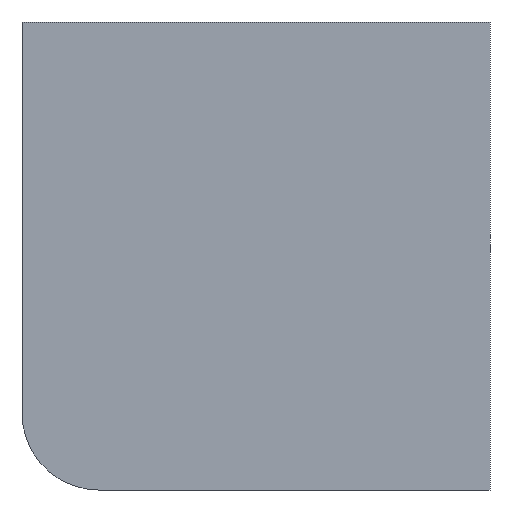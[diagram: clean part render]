
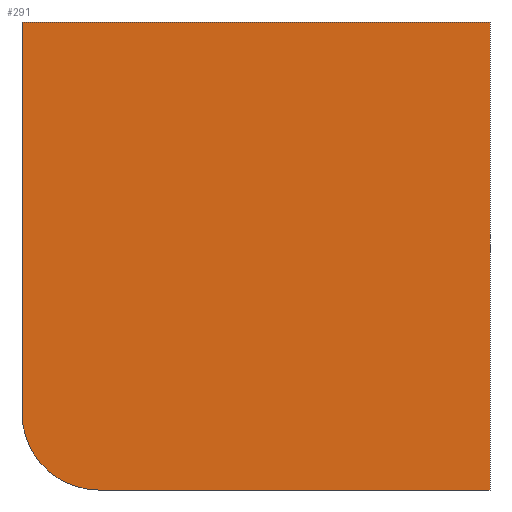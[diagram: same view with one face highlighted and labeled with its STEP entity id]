
A CAD part, front view. The second image highlights one B-rep face of the part: STEP entity #291.
In plain terms, the highlighted planar face has unit normal (0, -1, 0).
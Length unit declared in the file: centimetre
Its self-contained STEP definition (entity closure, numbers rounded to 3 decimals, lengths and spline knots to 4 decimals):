
#5 = VECTOR ( 'NONE', #654, 100. ) ;
#10 = LINE ( 'NONE', #747, #289 ) ;
#56 = EDGE_CURVE ( 'NONE', #567, #322, #346, .T. ) ;
#60 = LINE ( 'NONE', #807, #279 ) ;
#82 = CARTESIAN_POINT ( 'NONE',  ( 0., 0., 1000. ) ) ;
#94 = CARTESIAN_POINT ( 'NONE',  ( 0., 0., 163.3697 ) ) ;
#96 = ORIENTED_EDGE ( 'NONE', *, *, #369, .F. ) ;
#109 = CARTESIAN_POINT ( 'NONE',  ( 1000., 0., 0. ) ) ;
#123 = LINE ( 'NONE', #462, #5 ) ;
#139 = DIRECTION ( 'NONE',  ( 0., 1., 0. ) ) ;
#162 = VERTEX_POINT ( 'NONE', #552 ) ;
#216 = LINE ( 'NONE', #82, #562 ) ;
#234 = CARTESIAN_POINT ( 'NONE',  ( 163.3697, 0., 163.3697 ) ) ;
#276 = CARTESIAN_POINT ( 'NONE',  ( 0., 0., 1000. ) ) ;
#279 = VECTOR ( 'NONE', #333, 100. ) ;
#282 = CARTESIAN_POINT ( 'NONE',  ( 1000., 0., 1000. ) ) ;
#289 = VECTOR ( 'NONE', #743, 100. ) ;
#291 = ADVANCED_FACE ( 'NONE', ( #342 ), #601, .F. ) ;
#297 = VERTEX_POINT ( 'NONE', #282 ) ;
#310 = DIRECTION ( 'NONE',  ( 0., 0., 1. ) ) ;
#322 = VERTEX_POINT ( 'NONE', #592 ) ;
#333 = DIRECTION ( 'NONE',  ( 0., 0., -1. ) ) ;
#342 = FACE_OUTER_BOUND ( 'NONE', #683, .T. ) ;
#346 = CIRCLE ( 'NONE', #684, 163.3697 ) ;
#353 = EDGE_CURVE ( 'NONE', #162, #567, #123, .T. ) ;
#364 = DIRECTION ( 'NONE',  ( 0., -1., 0. ) ) ;
#369 = EDGE_CURVE ( 'NONE', #162, #297, #216, .T. ) ;
#382 = ORIENTED_EDGE ( 'NONE', *, *, #478, .T. ) ;
#454 = ORIENTED_EDGE ( 'NONE', *, *, #680, .F. ) ;
#462 = CARTESIAN_POINT ( 'NONE',  ( 0., 0., 1000. ) ) ;
#468 = DIRECTION ( 'NONE',  ( 1., 0., 0. ) ) ;
#478 = EDGE_CURVE ( 'NONE', #322, #850, #10, .T. ) ;
#518 = ORIENTED_EDGE ( 'NONE', *, *, #353, .T. ) ;
#541 = DIRECTION ( 'NONE',  ( 0., 0., 1. ) ) ;
#551 = ORIENTED_EDGE ( 'NONE', *, *, #56, .T. ) ;
#552 = CARTESIAN_POINT ( 'NONE',  ( 0., 0., 1000. ) ) ;
#561 = AXIS2_PLACEMENT_3D ( 'NONE', #276, #139, #541 ) ;
#562 = VECTOR ( 'NONE', #468, 100. ) ;
#567 = VERTEX_POINT ( 'NONE', #94 ) ;
#592 = CARTESIAN_POINT ( 'NONE',  ( 163.3697, 0., 0. ) ) ;
#601 = PLANE ( 'NONE',  #561 ) ;
#654 = DIRECTION ( 'NONE',  ( 0., 0., -1. ) ) ;
#680 = EDGE_CURVE ( 'NONE', #297, #850, #60, .T. ) ;
#683 = EDGE_LOOP ( 'NONE', ( #518, #551, #382, #454, #96 ) ) ;
#684 = AXIS2_PLACEMENT_3D ( 'NONE', #234, #364, #310 ) ;
#743 = DIRECTION ( 'NONE',  ( 1., 0., 0. ) ) ;
#747 = CARTESIAN_POINT ( 'NONE',  ( 0., 0., 0. ) ) ;
#807 = CARTESIAN_POINT ( 'NONE',  ( 1000., 0., 1000. ) ) ;
#850 = VERTEX_POINT ( 'NONE', #109 ) ;
